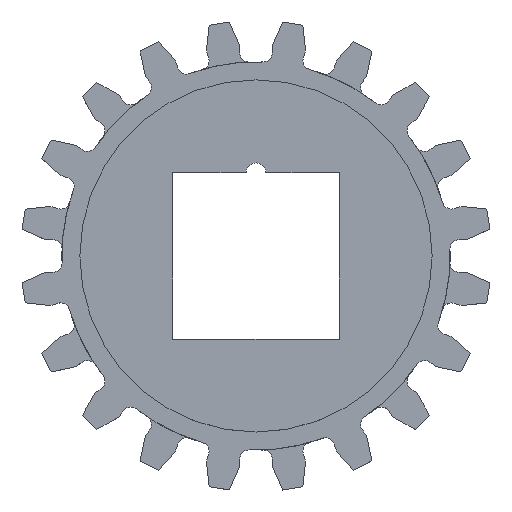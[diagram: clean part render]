
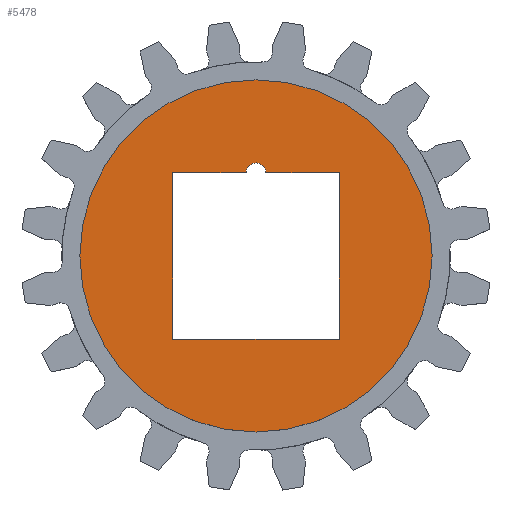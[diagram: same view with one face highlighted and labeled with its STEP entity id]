
A CAD part, top view. The second image highlights one B-rep face of the part: STEP entity #5478.
In plain terms, the highlighted planar face has unit normal (0, 0, 1).
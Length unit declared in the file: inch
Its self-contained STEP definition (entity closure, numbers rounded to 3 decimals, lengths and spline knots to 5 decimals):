
#1949=CARTESIAN_POINT('',(0.,0.,0.41));
#1950=DIRECTION('',(0.,0.,1.));
#1951=DIRECTION('',(1.,0.,0.));
#1952=AXIS2_PLACEMENT_3D('',#1949,#1950,#1951);
#1954=CARTESIAN_POINT('',(0.,0.,0.41));
#1955=DIRECTION('',(0.,0.,1.));
#1956=DIRECTION('',(-1.,0.,0.));
#1957=AXIS2_PLACEMENT_3D('',#1954,#1955,#1956);
#1959=DIRECTION('',(-1.,0.,0.));
#1960=VECTOR('',#1959,1.0405);
#1961=CARTESIAN_POINT('',(-0.1405,1.181,0.41));
#1962=LINE('',#1961,#1960);
#1963=DIRECTION('',(0.,-1.,0.));
#1964=VECTOR('',#1963,2.362);
#1965=CARTESIAN_POINT('',(-1.181,1.181,0.41));
#1966=LINE('',#1965,#1964);
#1967=DIRECTION('',(1.,0.,0.));
#1968=VECTOR('',#1967,2.362);
#1969=CARTESIAN_POINT('',(-1.181,-1.181,0.41));
#1970=LINE('',#1969,#1968);
#1971=DIRECTION('',(0.,1.,0.));
#1972=VECTOR('',#1971,2.362);
#1973=CARTESIAN_POINT('',(1.181,-1.181,0.41));
#1974=LINE('',#1973,#1972);
#1975=DIRECTION('',(-1.,0.,0.));
#1976=VECTOR('',#1975,1.0405);
#1977=CARTESIAN_POINT('',(1.181,1.181,0.41));
#1978=LINE('',#1977,#1976);
#1984=CARTESIAN_POINT('',(0.,1.181,0.41));
#1985=DIRECTION('',(0.,0.,-1.));
#1986=DIRECTION('',(-1.,0.,0.));
#1987=AXIS2_PLACEMENT_3D('',#1984,#1985,#1986);
#2207=CARTESIAN_POINT('',(-1.181,1.181,0.41));
#2209=VERTEX_POINT('',#2207);
#2211=CARTESIAN_POINT('',(-1.181,-1.181,0.41));
#2213=VERTEX_POINT('',#2211);
#2215=CARTESIAN_POINT('',(1.181,-1.181,0.41));
#2217=VERTEX_POINT('',#2215);
#2219=CARTESIAN_POINT('',(1.181,1.181,0.41));
#2221=VERTEX_POINT('',#2219);
#2304=CARTESIAN_POINT('',(0.1405,1.181,0.41));
#2306=VERTEX_POINT('',#2304);
#2308=CARTESIAN_POINT('',(-0.1405,1.181,0.41));
#2310=VERTEX_POINT('',#2308);
#2643=CARTESIAN_POINT('',(2.5,0.,0.41));
#2644=CARTESIAN_POINT('',(-2.5,0.,0.41));
#2645=VERTEX_POINT('',#2643);
#2646=VERTEX_POINT('',#2644);
#5455=CARTESIAN_POINT('',(0.,0.,0.41));
#5456=DIRECTION('',(0.,0.,1.));
#5457=DIRECTION('',(1.,0.,0.));
#5458=AXIS2_PLACEMENT_3D('',#5455,#5456,#5457);
#5459=PLANE('',#5458);
#5460=ORIENTED_EDGE('',*,*,#5407,.F.);
#5461=ORIENTED_EDGE('',*,*,#5436,.F.);
#5462=EDGE_LOOP('',(#5460,#5461));
#5463=FACE_OUTER_BOUND('',#5462,.F.);
#5465=ORIENTED_EDGE('',*,*,#5464,.F.);
#5467=ORIENTED_EDGE('',*,*,#5466,.T.);
#5469=ORIENTED_EDGE('',*,*,#5468,.T.);
#5471=ORIENTED_EDGE('',*,*,#5470,.T.);
#5473=ORIENTED_EDGE('',*,*,#5472,.T.);
#5475=ORIENTED_EDGE('',*,*,#5474,.T.);
#5476=EDGE_LOOP('',(#5465,#5467,#5469,#5471,#5473,#5475));
#5477=FACE_BOUND('',#5476,.F.);
#5478=ADVANCED_FACE('',(#5463,#5477),#5459,.T.);
#1953=CIRCLE('',#1952,2.5);
#1958=CIRCLE('',#1957,2.5);
#1988=CIRCLE('',#1987,0.1405);
#5407=EDGE_CURVE('',#2645,#2646,#1953,.T.);
#5436=EDGE_CURVE('',#2646,#2645,#1958,.T.);
#5464=EDGE_CURVE('',#2310,#2306,#1988,.T.);
#5466=EDGE_CURVE('',#2310,#2209,#1962,.T.);
#5468=EDGE_CURVE('',#2209,#2213,#1966,.T.);
#5470=EDGE_CURVE('',#2213,#2217,#1970,.T.);
#5472=EDGE_CURVE('',#2217,#2221,#1974,.T.);
#5474=EDGE_CURVE('',#2221,#2306,#1978,.T.);
